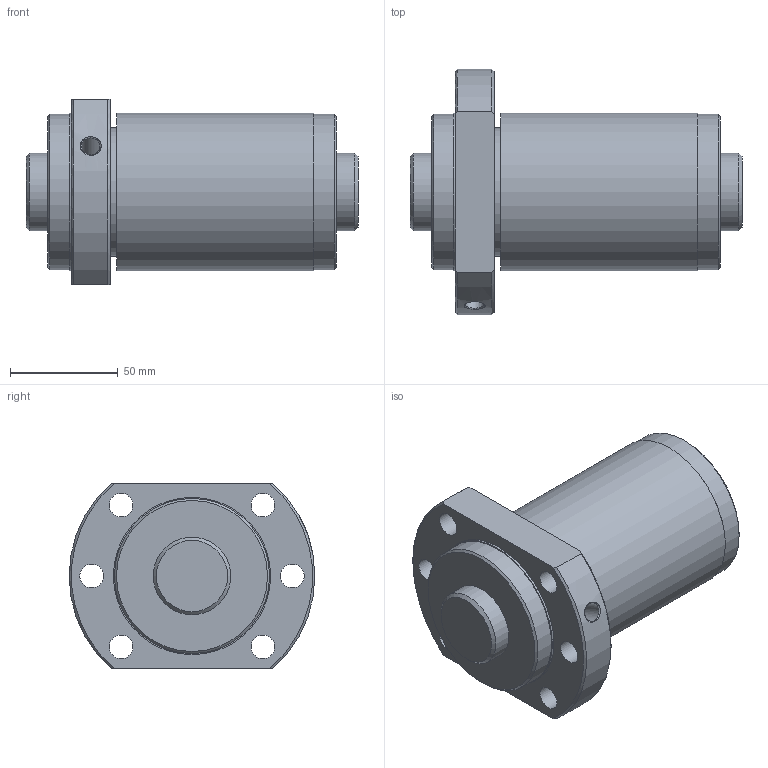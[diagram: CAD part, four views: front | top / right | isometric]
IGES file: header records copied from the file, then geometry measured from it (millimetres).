
Start section: Data from Parasolid IGES Translator 26.0.171, Copyright(c) 2006 Siemens PLM Software. All Rights Reserved.
Global section: file name: SBK3636-5.6RRG0+154LC0(0000).igs; native system: By Siemens PLM Incorporated; preprocessor: XPlus GENERIC/IGES 26.0.171; author: Noname; organization: Noname; date: 20240528.112008; units: millimetre
Bounding box: 154 x 114 x 86 mm (x, y, z)
Surface area: 88047 mm2 (no closed solid volume)
Topology: 0 solids, 0 shells, 37 faces, 167 edges, 143 vertices
Faces by surface type: revolution 26, extrusion 11
